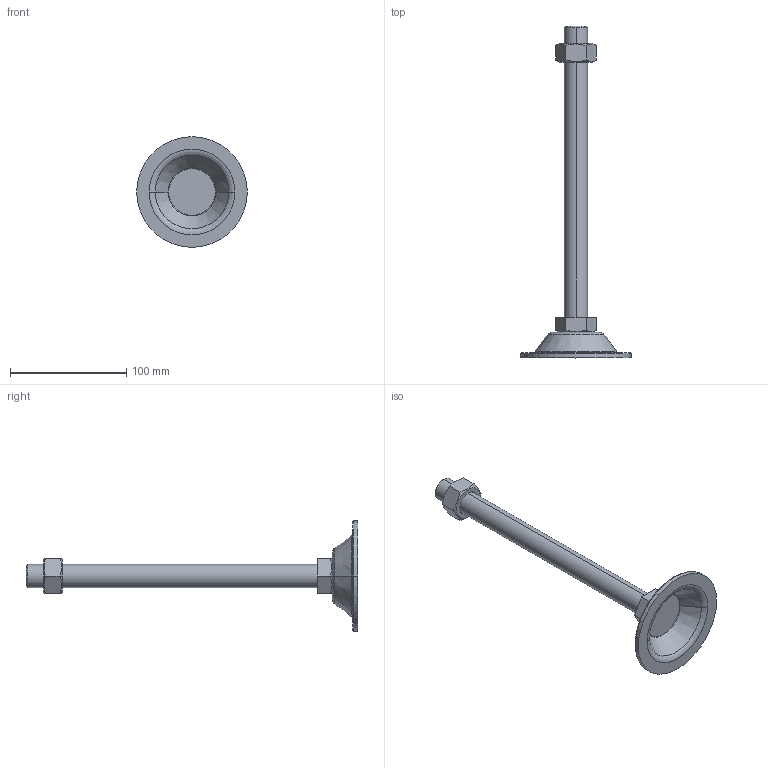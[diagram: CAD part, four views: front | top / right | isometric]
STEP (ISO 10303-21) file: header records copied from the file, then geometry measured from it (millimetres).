
FILE_DESCRIPTION (( 'STEP AP214' ), '1' );
FILE_NAME ('BL95-M20-250.step', '2021-01-06T05:41:47', ( '' ), ( '' ), 'SwSTEP 2.0', 'SolidWorks 2019', '' );
FILE_SCHEMA (( 'AUTOMOTIVE_DESIGN' ));
Length unit declared in the file: millimetre
Products named in the file (1): BL95-M20-250
Bounding box: 95 x 285 x 95 mm (x, y, z)
Volume: 134169.5 mm3; surface area: 40208.7 mm2
Topology: 3 solids, 3 shells, 53 faces, 110 edges, 66 vertices
Faces by surface type: plane 21, cone 16, torus 10, cylinder 6
Entity records: 1630 total; most frequent: CARTESIAN_POINT 440, DIRECTION 252, ORIENTED_EDGE 220, EDGE_CURVE 110, AXIS2_PLACEMENT_3D 106, VERTEX_POINT 66, EDGE_LOOP 58, FACE_OUTER_BOUND 53
